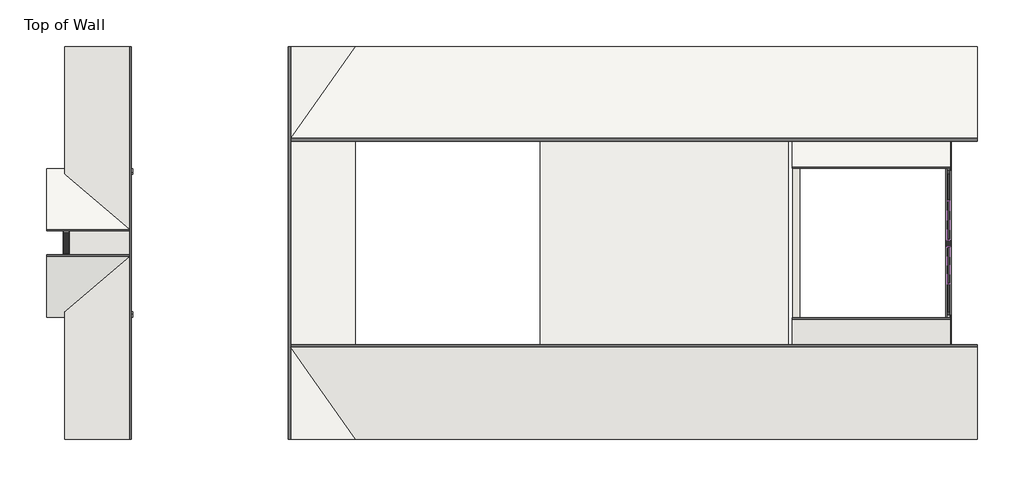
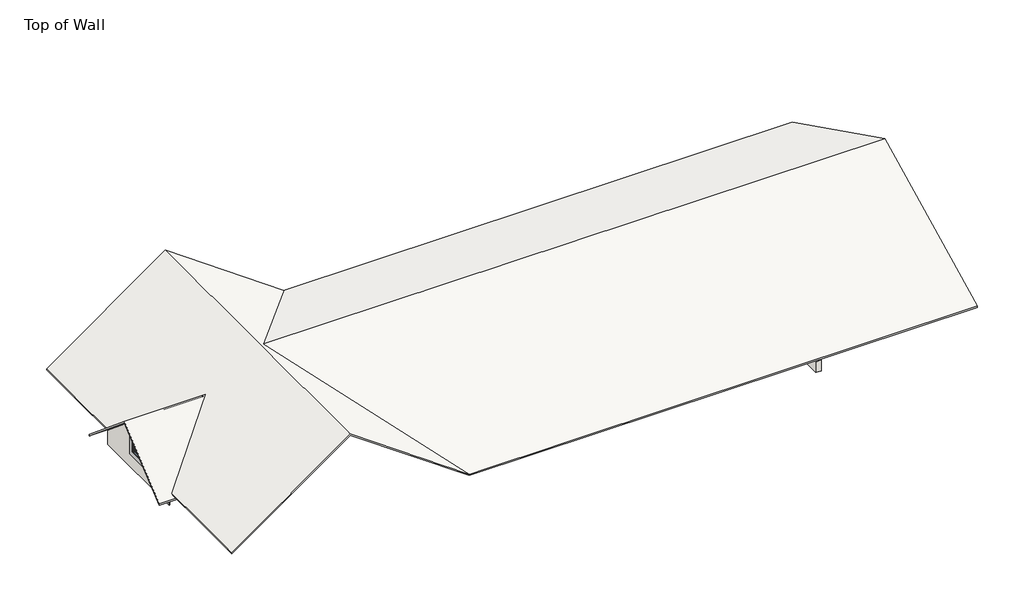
# One storey: 18 members, 6 plates, 5 walls, 3 beams, 3 coverings, 3 roofs, 2 proxies, 1 column, 1 window.
"""IFC4 building model written with IfcOpenShell, lengths in millimetres."""

import ifcopenshell
import ifcopenshell.guid

model = None  # the IFC model being written
_history = None  # IfcOwnerHistory: only IFC2X3 demands one
_inside = {}  # id of a spatial element -> (the spatial element, [elements in it])
_under = {}  # id of a project, library or spatial element -> (it, [spatial elements below it])
_declared = {}  # id of a project -> (the project, [libraries it declares])
_typed = {}  # id of a type object -> (the type object, [elements of that type])
_made_of = {}  # id of a material, layer set ... -> (it, [elements and type objects made of it])


def new_model(schema):
    """Start an empty IFC model of exactly this schema.

    Asked for "IFC4X3", IfcOpenShell would pick the latest addendum, in which some entities
    have other attributes; the version numbers below select the first issue.
    IFC2X3 requires an IfcOwnerHistory on every rooted entity: one is made here for all.
    """
    global model, _history
    if schema == "IFC4X3":
        model = ifcopenshell.file(schema_version=(4, 3, 0, 0))
    else:
        model = ifcopenshell.file(schema=schema)
    _inside.clear()
    _under.clear()
    _declared.clear()
    _typed.clear()
    _made_of.clear()
    _history = None
    if model.schema == "IFC2X3":
        org = make("IfcOrganization", Name="unknown")
        user = make(
            "IfcPersonAndOrganization",
            ThePerson=make("IfcPerson", FamilyName="unknown"),
            TheOrganization=org,
        )
        app = make(
            "IfcApplication",
            ApplicationDeveloper=org,
            Version="unknown",
            ApplicationFullName="unknown",
            ApplicationIdentifier="unknown",
        )
        _history = make(
            "IfcOwnerHistory",
            OwningUser=user,
            OwningApplication=app,
            ChangeAction="ADDED",
            CreationDate=0,
        )
    return model


def make(cls, **values):
    """One entity of the class cls with the attributes given. An attribute that is None is left unset."""
    return model.create_entity(
        cls, **{name: value for name, value in values.items() if value is not None}
    )


def rooted(cls, **values):
    """An entity with a GlobalId (a new one), such as an element, a storey or a relation."""
    return make(cls, GlobalId=ifcopenshell.guid.new(), OwnerHistory=_history, **values)


def si_unit(unit_type, name, prefix=None):
    """IfcSIUnit, for example si_unit("LENGTHUNIT", "METRE", prefix="MILLI")."""
    return make("IfcSIUnit", UnitType=unit_type, Prefix=prefix, Name=name)


def assignment(units):
    """IfcUnitAssignment: the units of a project."""
    return None if units is None else make("IfcUnitAssignment", Units=units)


def point(xyz):
    """IfcCartesianPoint."""
    return None if xyz is None else make("IfcCartesianPoint", Coordinates=xyz)


def direction(xyz):
    """IfcDirection."""
    return None if xyz is None else make("IfcDirection", DirectionRatios=xyz)


def frame(location, z_axis=None, x_axis=None):
    """IfcAxis2Placement3D, a coordinate frame: its origin and axes. An axis left out is left unset."""
    return make(
        "IfcAxis2Placement3D",
        Location=point(location),
        Axis=direction(z_axis),
        RefDirection=direction(x_axis),
    )


def origin():
    """The frame at (0, 0, 0) with its axes left unset."""
    return frame((0.0, 0.0, 0.0))


def origin_with_axes():
    """The frame at (0, 0, 0) with the z axis (0, 0, 1) and the x axis (1, 0, 0) written out."""
    return frame((0.0, 0.0, 0.0), z_axis=(0.0, 0.0, 1.0), x_axis=(1.0, 0.0, 0.0))


def place(relative_to, where):
    """IfcLocalPlacement: puts the frame where relative to a parent placement (None: the world)."""
    return make(
        "IfcLocalPlacement", PlacementRelTo=relative_to, RelativePlacement=where
    )


def context(
    kind, dimensions, precision=None, world=None, true_north=None, identifier=None
):
    """IfcGeometricRepresentationContext, for example the 3D "Model" context."""
    return make(
        "IfcGeometricRepresentationContext",
        ContextIdentifier=identifier,
        ContextType=kind,
        CoordinateSpaceDimension=dimensions,
        Precision=precision,
        WorldCoordinateSystem=world,
        TrueNorth=true_north,
    )


def project(units=None, contexts=None):
    """IfcProject with its units and contexts."""
    return rooted(
        "IfcProject",
        Name="project",
        RepresentationContexts=contexts,
        UnitsInContext=assignment(units),
    )


def spatial(cls, under=None, at=None, **own):
    """A site, building, storey or space (cls), placed at a placement, below another one or the project."""
    s = rooted(cls, ObjectPlacement=at, **own)
    if under is not None:
        _under.setdefault(under.id(), (under, []))[1].append(s)
    return s


def polyline(points):
    """IfcPolyline through the points."""
    return make("IfcPolyline", Points=[point(p) for p in points])


def outline(outer, holes=None, kind="AREA"):
    """IfcArbitraryClosedProfileDef: a profile drawn as a closed curve; with holes, ...WithVoids."""
    if holes is None:
        return make("IfcArbitraryClosedProfileDef", ProfileType=kind, OuterCurve=outer)
    return make(
        "IfcArbitraryProfileDefWithVoids",
        ProfileType=kind,
        OuterCurve=outer,
        InnerCurves=holes,
    )


def extrude(swept, where, along, depth):
    """IfcExtrudedAreaSolid: the profile swept, set in the frame where, extruded along a direction by depth."""
    return make(
        "IfcExtrudedAreaSolid",
        SweptArea=swept,
        Position=where,
        ExtrudedDirection=direction(along),
        Depth=depth,
    )


def faces_of(points, faces, orient=None, outer=None):
    """IfcFace entities. A face is a list of loops; a loop is a list of indices into points, from 0.

    orient and outer hold one flag for each loop. By default every Orientation is true, the
    first loop of a face is its IfcFaceOuterBound and the others are IfcFaceBound.
    """
    made = []
    for i, loops in enumerate(faces):
        bounds = []
        for j, loop in enumerate(loops):
            is_outer = j == 0 if outer is None else outer[i][j]
            bounds.append(
                make(
                    "IfcFaceOuterBound" if is_outer else "IfcFaceBound",
                    Bound=make("IfcPolyLoop", Polygon=[points[k] for k in loop]),
                    Orientation=True if orient is None else orient[i][j],
                )
            )
        made.append(make("IfcFace", Bounds=bounds))
    return made


def faceted_brep(points, faces, orient=None, outer=None, voids=None):
    """IfcFacetedBrep: a solid bounded by flat faces; with voids (closed shells), ...WithVoids."""
    shared = [point(p) for p in points]
    hull = make("IfcClosedShell", CfsFaces=faces_of(shared, faces, orient, outer))
    if voids is None:
        return make("IfcFacetedBrep", Outer=hull)
    return make(
        "IfcFacetedBrepWithVoids",
        Outer=hull,
        Voids=[
            make(cls, CfsFaces=faces_of(shared, fs, o, b)) for cls, fs, o, b in voids
        ],
    )


def shape(context_of_items, identifier, shape_type, items):
    """IfcShapeRepresentation: the items that make up one representation, for example the "Body"."""
    return make(
        "IfcShapeRepresentation",
        ContextOfItems=context_of_items,
        RepresentationIdentifier=identifier,
        RepresentationType=shape_type,
        Items=items,
    )


def source(mapping_origin, context_of_items, identifier, shape_type, items):
    """IfcRepresentationMap: a shape defined once, which mapped items show again and again."""
    return make(
        "IfcRepresentationMap",
        MappingOrigin=mapping_origin,
        MappedRepresentation=shape(context_of_items, identifier, shape_type, items),
    )


def transform(
    local_origin,
    x_axis=None,
    y_axis=None,
    z_axis=None,
    scale=None,
    scale2=None,
    scale3=None,
    uniform=True,
):
    """IfcCartesianTransformationOperator3D, or its non-uniform kind. x_axis, y_axis, z_axis: its Axis1, 2, 3."""
    if uniform:
        return make(
            "IfcCartesianTransformationOperator3D",
            Axis1=direction(x_axis),
            Axis2=direction(y_axis),
            LocalOrigin=point(local_origin),
            Scale=scale,
            Axis3=direction(z_axis),
        )
    return make(
        "IfcCartesianTransformationOperator3DnonUniform",
        Axis1=direction(x_axis),
        Axis2=direction(y_axis),
        LocalOrigin=point(local_origin),
        Scale=scale,
        Axis3=direction(z_axis),
        Scale2=scale2,
        Scale3=scale3,
    )


def mapped(mapping_source, mapping_target):
    """IfcMappedItem: shows the shape of a source again, moved by a transform."""
    return make(
        "IfcMappedItem", MappingSource=mapping_source, MappingTarget=mapping_target
    )


def made_of(thing, what):
    """Note that an element or type object is made of a material, layer set ...; save() writes the relation."""
    if what is not None:
        _made_of.setdefault(what.id(), (what, []))[1].append(thing)
    return thing


def element(
    cls,
    number,
    at=None,
    inside=None,
    cuts=None,
    type_object=None,
    material=None,
    context=None,
    identifier="Body",
    shape_type=None,
    held_by="IfcProductDefinitionShape",
    body=None,
    shapes=None,
    **own,
):
    """One element of the class cls, such as IfcWall. Its Tag is "e" and its number.

    at: its placement. inside: the storey or other place that contains it. cuts: it is an
    opening in that element (IfcRelVoidsElement). A single representation is given by context,
    identifier, shape_type and body (its items); several are given by shapes. held_by: the class
    of the entity that holds the representations. save() writes the other relations.
    """
    e = rooted(cls, Tag="e%d" % number, ObjectPlacement=at, **own)
    if body is not None:
        shapes = [shape(context, identifier, shape_type, body)]
    if shapes is not None:
        e.Representation = make(held_by, Representations=shapes)
    if inside is not None:
        _inside.setdefault(inside.id(), (inside, []))[1].append(e)
    if cuts is not None:
        rooted(
            "IfcRelVoidsElement", RelatingBuildingElement=cuts, RelatedOpeningElement=e
        )
    if type_object is not None:
        _typed.setdefault(type_object.id(), (type_object, []))[1].append(e)
    return made_of(e, material)


def aggregate(whole, parts):
    """IfcRelAggregates: a whole, such as a stair, and the parts it consists of."""
    return rooted("IfcRelAggregates", RelatingObject=whole, RelatedObjects=parts)


def save(model, path):
    """Write the relations noted so far, then the file.

    IfcRelAggregates (storeys below a building ...), IfcRelContainedInSpatialStructure (elements
    in a storey), IfcRelDefinesByType, IfcRelAssociatesMaterial and IfcRelDeclares: one each for
    every whole, place, type object, material and project.
    """
    for whole, parts in _under.values():
        aggregate(whole, parts)
    for where, things in _inside.values():
        rooted(
            "IfcRelContainedInSpatialStructure",
            RelatedElements=things,
            RelatingStructure=where,
        )
    for kind, things in _typed.values():
        rooted("IfcRelDefinesByType", RelatedObjects=things, RelatingType=kind)
    for what, things in _made_of.values():
        rooted("IfcRelAssociatesMaterial", RelatedObjects=things, RelatingMaterial=what)
    for by, libraries in _declared.values():
        rooted("IfcRelDeclares", RelatingContext=by, RelatedDefinitions=libraries)
    model.write(path)


def dimension_lumber_bh_6x8_fb310b90(model_context):
    return source(origin(), model_context, "Body", "SweptSolid", [
        extrude(outline(polyline([(4339.48205, 69.85), (4339.48205, -69.85), (-4339.48205, -69.85), (-4339.48205, 69.85), (4339.48205, 69.85)])), frame((0.0, 0.0, -92.075), z_axis=(0.0, 0.0, 1.0), x_axis=(1.0, 0.0, 0.0)), (0.0, 0.0, 1.0), 184.15),
    ])


def dimension_lumber_bh_6x8_68a0e328(model_context):
    return source(origin(), model_context, "Body", "SweptSolid", [
        extrude(outline(polyline([(1983.63205, 69.85), (1983.63205, -69.85), (-2053.48205, -69.85), (-2053.48205, 69.85), (1983.63205, 69.85)])), frame((0.0, 0.0, -92.075), z_axis=(0.0, 0.0, 1.0), x_axis=(1.0, 0.0, 0.0)), (0.0, 0.0, 1.0), 184.15),
    ])


def dimension_lumber_bh_6x8_9cf79a14(model_context):
    return source(origin(), model_context, "Body", "SweptSolid", [
        extrude(outline(polyline([(2053.48205, 69.85), (2053.48205, -69.85), (-1983.63205, -69.85), (-1983.63205, 69.85), (2053.48205, 69.85)])), frame((0.0, 0.0, -92.075), z_axis=(0.0, 0.0, 1.0), x_axis=(1.0, 0.0, 0.0)), (0.0, 0.0, 1.0), 184.15),
    ])


def trim_window_exterior_flat_picture_frame_8815b321(model_context):
    return source(origin(), model_context, "Body", "SweptSolid", [
        extrude(outline(polyline([(444.5, 139.7), (444.5, -749.3), (-444.5, -749.3), (-444.5, 139.7), (444.5, 139.7)]), holes=[polyline([(304.8, 0.0), (-304.8, 0.0), (-304.8, -609.6), (304.8, -609.6), (304.8, 0.0)])]), origin_with_axes(), (0.0, 0.0, 1.0), 19.05),
    ])


def trim_window_interior_flat_picture_frame_7b48024e(model_context):
    return source(origin(), model_context, "Body", "SweptSolid", [
        extrude(outline(polyline([(381.0, 63.5), (381.0, -685.8), (-381.0, -685.8), (-381.0, 63.5), (381.0, 63.5)]), holes=[polyline([(292.1, -12.7), (-292.1, -12.7), (-292.1, -596.9), (292.1, -596.9), (292.1, -12.7)])]), origin_with_axes(), (0.0, 0.0, 1.0), 19.05),
    ])


def dimension_lumber_column_bh_6x6_a5d58985(model_context):
    return source(origin(), model_context, "Body", "SweptSolid", [
        extrude(outline(polyline([(69.85, 69.85), (69.85, -69.85), (-69.85, -69.85), (-69.85, 69.85), (69.85, 69.85)])), frame((0.0, 0.0, 3302.0), z_axis=(0.0, 0.0, 1.0), x_axis=(1.0, 0.0, 0.0)), (0.0, 0.0, 1.0), 2133.6),
    ])


def rectangular_mullion_screen_frame_ee6aec00(model_context):
    return source(origin(), model_context, "Body", "SweptSolid", [
        extrude(outline(polyline([(0.0, 31.75), (0.0, -31.75), (-38.1, -31.75), (-38.1, 31.75), (0.0, 31.75)])), frame((0.0, 0.0, -904.1892), z_axis=(0.0, 0.0, 1.0), x_axis=(1.0, 0.0, 0.0)), (0.0, 0.0, 1.0), 904.1892),
    ])


def rectangular_mullion_screen_frame_013a71e0(model_context):
    return source(origin(), model_context, "Body", "SweptSolid", [
        extrude(outline(polyline([(0.0, 0.0), (-62.106626, -38.1), (-2093.8077001, -38.1), (-2093.8077001, 0.0), (0.0, 0.0)])), frame((0.0, -31.75, 0.0), z_axis=(0.0, 1.0, 0.0), x_axis=(0.0, 0.0, 1.0)), (0.0, 0.0, 1.0), 63.5),
    ])


def rectangular_mullion_screen_frame_9330c1cc(model_context):
    return source(origin(), model_context, "Body", "SweptSolid", [
        extrude(outline(polyline([(0.0, 31.75), (0.0, -31.75), (-38.1, -31.75), (-38.1, 31.75), (0.0, 31.75)])), frame((0.0, 0.0, -954.786), z_axis=(0.0, 0.0, 1.0), x_axis=(1.0, 0.0, 0.0)), (0.0, 0.0, 1.0), 954.786),
    ])


def rectangular_mullion_screen_frame_83de2e3d(model_context):
    return source(origin(), model_context, "Body", "SweptSolid", [
        extrude(outline(polyline([(0.0, 0.0), (0.0, -38.1), (-2042.1398217, -38.1), (-2104.2464477, 0.0), (0.0, 0.0)])), frame((0.0, -31.75, 0.0), z_axis=(0.0, 1.0, 0.0), x_axis=(0.0, 0.0, 1.0)), (0.0, 0.0, 1.0), 63.5),
    ])


def rectangular_mullion_screen_frame_a20606ee(model_context):
    return source(origin(), model_context, "Body", "SweptSolid", [
        extrude(outline(polyline([(0.0, 0.0), (-159.034112, -38.1), (-1617.6139535, -38.1), (-1617.6139535, 0.0), (0.0, 0.0)])), frame((0.0, -31.75, 0.0), z_axis=(0.0, 1.0, 0.0), x_axis=(0.0, 0.0, 1.0)), (0.0, 0.0, 1.0), 63.5),
    ])


def rectangular_mullion_screen_frame_deee551e(model_context):
    return source(origin(), model_context, "Body", "SweptSolid", [
        extrude(outline(polyline([(0.0, 0.0), (0.0, -38.1), (-1016.3026763, -38.1), (-1078.4093023, 0.0), (0.0, 0.0)])), frame((0.0, -31.75, 0.0), z_axis=(0.0, 1.0, 0.0), x_axis=(0.0, 0.0, 1.0)), (0.0, 0.0, 1.0), 63.5),
    ])


def rectangular_mullion_screen_frame_176d3cdc(model_context):
    return source(origin(), model_context, "Body", "SweptSolid", [
        extrude(outline(polyline([(0.0, 31.75), (0.0, -31.75), (-38.1, -31.75), (-38.1, 31.75), (0.0, 31.75)])), frame((0.0, 0.0, -1677.6500867), z_axis=(0.0, 0.0, 1.0), x_axis=(1.0, 0.0, 0.0)), (0.0, 0.0, 1.0), 1677.6500867),
    ])


def rectangular_mullion_screen_frame_a49a39bd(model_context):
    return source(origin(), model_context, "Body", "SweptSolid", [
        extrude(outline(polyline([(0.0, 19.05), (0.0, -19.05), (-1572.0863066, -19.05), (-1571.1786793, -17.2644466), (-1552.7194278, 19.05), (0.0, 19.05)])), frame((0.0, -31.75, 0.0), z_axis=(0.0, 1.0, 0.0), x_axis=(0.0, 0.0, 1.0)), (0.0, 0.0, 1.0), 63.5),
    ])


def rectangular_mullion_screen_frame_8fefd284(model_context):
    return source(origin(), model_context, "Body", "SweptSolid", [
        extrude(outline(polyline([(0.0, 31.75), (0.0, -31.75), (-38.1, -31.75), (-38.1, 31.75), (0.0, 31.75)])), frame((0.0, 0.0, -1924.6909457), z_axis=(0.0, 0.0, 1.0), x_axis=(1.0, 0.0, 0.0)), (0.0, 0.0, 1.0), 1924.6909457),
    ])


def rectangular_mullion_screen_frame_79ea2501(model_context):
    return source(origin(), model_context, "Body", "SweptSolid", [
        extrude(outline(polyline([(0.0, 0.0), (0.0, -38.1), (-1263.924688, -38.1), (-1422.9588, 0.0), (0.0, 0.0)])), frame((0.0, -31.75, 0.0), z_axis=(0.0, 1.0, 0.0), x_axis=(0.0, 0.0, 1.0)), (0.0, 0.0, 1.0), 63.5),
    ])


def rectangular_mullion_screen_frame_4bcd470e(model_context):
    return source(origin(), model_context, "Body", "SweptSolid", [
        extrude(outline(polyline([(0.0, 19.05), (0.0, -19.05), (-699.9413206, -19.05), (-699.0336934, -17.2644466), (-680.5744418, 19.05), (0.0, 19.05)])), frame((0.0, -31.75, 0.0), z_axis=(0.0, 1.0, 0.0), x_axis=(0.0, 0.0, 1.0)), (0.0, 0.0, 1.0), 63.5),
    ])


def rectangular_mullion_screen_frame_2119ea84(model_context):
    return source(origin(), model_context, "Body", "SweptSolid", [
        extrude(outline(polyline([(0.0, 0.0), (-62.106626, -38.1), (-1135.1676867, -38.1), (-1135.1676867, 0.0), (0.0, 0.0)])), frame((0.0, -31.75, 0.0), z_axis=(0.0, 1.0, 0.0), x_axis=(0.0, 0.0, 1.0)), (0.0, 0.0, 1.0), 63.5),
    ])


def rectangular_mullion_screen_frame_e75fa713(model_context):
    return source(origin(), model_context, "Body", "SweptSolid", [
        extrude(outline(polyline([(0.0, 19.05), (0.0, -19.05), (-1537.4389604, -19.05), (-1555.898212, 17.2644466), (-1556.8058392, 19.05), (0.0, 19.05)])), frame((0.0, -31.75, 0.0), z_axis=(0.0, 1.0, 0.0), x_axis=(0.0, 0.0, 1.0)), (0.0, 0.0, 1.0), 63.5),
    ])


def rectangular_mullion_screen_frame_7a745c24(model_context):
    return source(origin(), model_context, "Body", "SweptSolid", [
        extrude(outline(polyline([(0.0, 0.0), (-159.034112, -38.1), (-1422.9588, -38.1), (-1422.9588, 0.0), (0.0, 0.0)])), frame((0.0, -31.75, 0.0), z_axis=(0.0, 1.0, 0.0), x_axis=(0.0, 0.0, 1.0)), (0.0, 0.0, 1.0), 63.5),
    ])


def rectangular_mullion_screen_frame_60373731(model_context):
    return source(origin(), model_context, "Body", "SweptSolid", [
        extrude(outline(polyline([(0.0, 31.75), (0.0, -31.75), (-38.1, -31.75), (-38.1, 31.75), (0.0, 31.75)])), frame((0.0, 0.0, -1890.9692851), z_axis=(0.0, 0.0, 1.0), x_axis=(1.0, 0.0, 0.0)), (0.0, 0.0, 1.0), 1890.9692851),
    ])


def rectangular_mullion_screen_frame_e0ec7711(model_context):
    return source(origin(), model_context, "Body", "SweptSolid", [
        extrude(outline(polyline([(0.0, 0.0), (0.0, -38.1), (-1458.5798416, -38.1), (-1617.6139535, 0.0), (0.0, 0.0)])), frame((0.0, -31.75, 0.0), z_axis=(0.0, 1.0, 0.0), x_axis=(0.0, 0.0, 1.0)), (0.0, 0.0, 1.0), 63.5),
    ])


def rectangular_mullion_screen_frame_23a45e78(model_context):
    return source(origin(), model_context, "Body", "SweptSolid", [
        extrude(outline(polyline([(0.0, 31.75), (0.0, -31.75), (-38.1, -31.75), (-38.1, 31.75), (0.0, 31.75)])), frame((0.0, 0.0, -1647.5891867), z_axis=(0.0, 0.0, 1.0), x_axis=(1.0, 0.0, 0.0)), (0.0, 0.0, 1.0), 1647.5891867),
    ])


def rectangular_mullion_screen_frame_31afa89d(model_context):
    return source(origin(), model_context, "Body", "SweptSolid", [
        extrude(outline(polyline([(0.0, 19.05), (0.0, -19.05), (-680.5744418, -19.05), (-699.0336934, 17.2644466), (-699.9413206, 19.05), (0.0, 19.05)])), frame((0.0, -31.75, 0.0), z_axis=(0.0, 1.0, 0.0), x_axis=(0.0, 0.0, 1.0)), (0.0, 0.0, 1.0), 63.5),
    ])


def system_panel_screen_66b03ef9(model_context):
    return source(origin(), model_context, "Body", "SweptSolid", [
        extrude(outline(polyline([(0.0, -452.0946), (0.0, 452.0946), (1533.9863066, 452.0946), (1993.601074, -452.0946), (0.0, -452.0946)])), frame((0.0, -12.7, 0.0), z_axis=(0.0, 1.0, 0.0), x_axis=(0.0, 0.0, 1.0)), (0.0, 0.0, 1.0), 25.4),
    ])


def system_panel_screen_257f5660(model_context):
    return source(origin(), model_context, "Body", "SweptSolid", [
        extrude(outline(polyline([(0.0, -477.393), (0.0, 477.393), (2004.0398217, 477.393), (1518.7058392, -477.393), (0.0, -477.393)])), frame((0.0, -12.7, 0.0), z_axis=(0.0, 1.0, 0.0), x_axis=(0.0, 0.0, 1.0)), (0.0, 0.0, 1.0), 25.4),
    ])


def system_panel_screen_32e33c9f(model_context):
    return source(origin(), model_context, "Body", "SweptSolid", [
        extrude(outline(polyline([(0.0, -838.8250433), (0.0, 838.8250433), (661.8413206, 838.8250433), (1514.6194278, -838.8250433), (0.0, -838.8250433)])), frame((0.0, -12.7, 0.0), z_axis=(0.0, 1.0, 0.0), x_axis=(0.0, 0.0, 1.0)), (0.0, 0.0, 1.0), 25.4),
    ])


def system_panel_screen_d623d4bf(model_context):
    return source(origin(), model_context, "Body", "SweptSolid", [
        extrude(outline(polyline([(0.0, -631.962344), (0.0, 631.962344), (642.4744418, -631.962344), (0.0, -631.962344)])), frame((0.0, -12.7, 0.0), z_axis=(0.0, 1.0, 0.0), x_axis=(0.0, 0.0, 1.0)), (0.0, 0.0, 1.0), 25.4),
    ])


def system_panel_screen_efeee9d3(model_context):
    return source(origin(), model_context, "Body", "SweptSolid", [
        extrude(outline(polyline([(0.0, -631.962344), (0.0, 631.962344), (642.4744418, 631.962344), (0.0, -631.962344)])), frame((0.0, -12.7, 0.0), z_axis=(0.0, 1.0, 0.0), x_axis=(0.0, 0.0, 1.0)), (0.0, 0.0, 1.0), 25.4),
    ])


def system_panel_screen_35475e27(model_context):
    return source(origin(), model_context, "Body", "SweptSolid", [
        extrude(outline(polyline([(0.0, -823.7945933), (0.0, 823.7945933), (1499.3389604, 823.7945933), (661.8413206, -823.7945933), (0.0, -823.7945933)])), frame((0.0, -12.7, 0.0), z_axis=(0.0, 1.0, 0.0), x_axis=(0.0, 0.0, 1.0)), (0.0, 0.0, 1.0), 25.4),
    ])


def window_fixed_w_trim_2020_b07e8416(model_context):
    return source(origin(), model_context, "Body", "SweptSolid", [
        extrude(outline(polyline([(203.2, 12.7), (-279.4, 12.7), (-279.4, 25.4), (203.2, 25.4), (203.2, 12.7)])), frame((0.0, 0.0, 977.9), z_axis=(0.0, 0.0, 1.0), x_axis=(1.0, 0.0, 0.0)), (0.0, 0.0, 1.0), 482.6),
        extrude(outline(polyline([(1504.95, -323.85), (933.45, -323.85), (933.45, 247.65), (1504.95, 247.65), (1504.95, -323.85)]), holes=[polyline([(1460.5, -279.4), (1460.5, 203.2), (977.9, 203.2), (977.9, -279.4), (1460.5, -279.4)])]), frame((0.0, -3.175, 0.0), z_axis=(0.0, 1.0, 0.0), x_axis=(0.0, 0.0, 1.0)), (0.0, 0.0, 1.0), 44.45),
        extrude(outline(polyline([(1524.0, -342.9), (914.4, -342.9), (914.4, 266.7), (1524.0, 266.7), (1524.0, -342.9)]), holes=[polyline([(1492.25, -311.15), (1492.25, 234.95), (946.15, 234.95), (946.15, -311.15), (1492.25, -311.15)])]), frame((0.0, -60.325, 0.0), z_axis=(0.0, 1.0, 0.0), x_axis=(0.0, 0.0, 1.0)), (0.0, 0.0, 1.0), 57.15),
        extrude(outline(polyline([(1524.0, 266.7), (1524.0, -342.9), (914.4, -342.9), (914.4, 266.7), (1524.0, 266.7)]), holes=[polyline([(1504.95, 247.65), (933.45, 247.65), (933.45, -323.85), (1504.95, -323.85), (1504.95, 247.65)])]), frame((0.0, -3.175, 0.0), z_axis=(0.0, 1.0, 0.0), x_axis=(0.0, 0.0, 1.0)), (0.0, 0.0, 1.0), 63.5),
    ])


model = new_model("IFC4")

# Units and contexts
model_context = context("Model", 3, world=origin())
ifc_project = project(units=[si_unit("LENGTHUNIT", "METRE", prefix="MILLI")], contexts=[model_context])

# Site, building, storey
site = spatial("IfcSite", under=ifc_project)
building = spatial("IfcBuilding", under=site)
storey = spatial("IfcBuildingStorey", under=building, Name="Top of Wall", Elevation=3302.0)

# Beams
placement = place(None, origin())
dimension_lumber_bh_6x8_shape = dimension_lumber_bh_6x8_fb310b90(model_context)
element("IfcBeam", 1, ObjectType="Dimension Lumber BH : 6x8", at=placement, inside=storey, context=model_context, shape_type="MappedRepresentation", body=[
    mapped(dimension_lumber_bh_6x8_shape, transform((27590.4311833, 10712.3819784, 3209.925), x_axis=(0.0, -1.0, 0.0), y_axis=(1.0, 0.0, 0.0), z_axis=(0.0, 0.0, 1.0))),
])
dimension_lumber_bh_6x8_2_shape = dimension_lumber_bh_6x8_68a0e328(model_context)
element("IfcBeam", 2, ObjectType="Dimension Lumber BH : 6x8", at=placement, inside=storey, context=model_context, shape_type="MappedRepresentation", body=[
    mapped(dimension_lumber_bh_6x8_2_shape, transform((25606.7991333, 6303.0499284, 3209.925), x_axis=(-1.0, 0.0, 0.0), y_axis=(0.0, -1.0, 0.0), z_axis=(0.0, 0.0, 1.0))),
])
dimension_lumber_bh_6x8_3_shape = dimension_lumber_bh_6x8_9cf79a14(model_context)
element("IfcBeam", 3, ObjectType="Dimension Lumber BH : 6x8", at=placement, inside=storey, context=model_context, shape_type="MappedRepresentation", body=[
    mapped(dimension_lumber_bh_6x8_3_shape, transform((25606.7991333, 15121.7140284, 3209.925), x_axis=(1.0, 0.0, 0.0), y_axis=(0.0, 1.0, 0.0), z_axis=(0.0, 0.0, 1.0))),
])

# Proxies
trim_window_exterior_flat_picture_frame_shape = trim_window_exterior_flat_picture_frame_8815b321(model_context)
element("IfcBuildingElementProxy", 4, Name="Trim-Window-Exterior-Flat : Picture Frame", ObjectType="Trim-Window-Exterior-Flat : Picture Frame", at=placement, inside=storey, context=model_context, shape_type="MappedRepresentation", body=[
    mapped(trim_window_exterior_flat_picture_frame_shape, transform((5163.7170833, 10722.6499284, 4067.048), x_axis=(0.0, -1.0, 0.0), y_axis=(0.0, 0.0, 1.0), z_axis=(-1.0, 0.0, 0.0))),
])
trim_window_interior_flat_picture_frame_shape = trim_window_interior_flat_picture_frame_7b48024e(model_context)
element("IfcBuildingElementProxy", 5, Name="Trim-Window-Interior-Flat : Picture Frame", ObjectType="Trim-Window-Interior-Flat : Picture Frame", at=placement, inside=storey, context=model_context, shape_type="MappedRepresentation", body=[
    mapped(trim_window_interior_flat_picture_frame_shape, transform((5284.3670833, 10722.6499284, 4067.048), x_axis=(0.0, 1.0, 0.0), y_axis=(0.0, 0.0, 1.0), z_axis=(1.0, 0.0, 0.0))),
])

# Column
dimension_lumber_column_bh_6x6_shape = dimension_lumber_column_bh_6x6_a5d58985(model_context)
element("IfcColumn", 6, ObjectType="Dimension Lumber-Column BH : 6x6", at=placement, inside=storey, context=model_context, shape_type="MappedRepresentation", body=[
    mapped(dimension_lumber_column_bh_6x6_shape, transform((27590.4311833, 10712.3819784, 0.0), x_axis=(1.0, 0.0, 0.0), y_axis=(0.0, 1.0, 0.0), z_axis=(0.0, 0.0, 1.0))),
])

# Coverings
element("IfcCovering", 7, ObjectType="T&G Ceiling BHD", at=placement, inside=storey, context=model_context, shape_type="SweptSolid", body=[
    extrude(outline(polyline([(17235.0670833, 6303.0499284), (17235.0670833, 15142.2499284), (23521.5670833, 15142.2499284), (23521.5670833, 6303.0499284), (20686.2920833, 6303.0499284), (17235.0670833, 6303.0499284)])), frame((0.0, 0.0, 3286.125), z_axis=(0.0, 0.0, 1.0), x_axis=(1.0, 0.0, 0.0)), (0.0, 0.0, 1.0), 19.05),
])
element("IfcCovering", 8, ObjectType="Wood Painted", at=placement, inside=storey, context=model_context, shape_type="SweptSolid", body=[
    extrude(outline(polyline([(10722.6499284, 5468.4808396), (15051.8640284, 3303.8737896), (15051.8640284, 3286.125), (10722.6499284, 5450.73205), (10722.6499284, 5468.4808396)])), frame((23623.1670833, 0.0, 0.0), z_axis=(1.0, 0.0, 0.0), x_axis=(0.0, 1.0, 0.0)), (0.0, 0.0, 1.0), 4018.0641),
])
element("IfcCovering", 9, ObjectType="Wood Painted", at=placement, inside=storey, context=model_context, shape_type="SweptSolid", body=[
    extrude(outline(polyline([(6393.4358284, 3303.8737896), (10722.6499284, 5468.4808396), (10722.6499284, 5450.73205), (6393.4358284, 3286.125), (6393.4358284, 3303.8737896)])), frame((23623.1670833, 0.0, 0.0), z_axis=(1.0, 0.0, 0.0), x_axis=(0.0, 1.0, 0.0)), (0.0, 0.0, 1.0), 4018.0641),
])

# Members
rectangular_mullion_screen_frame_shape = rectangular_mullion_screen_frame_ee6aec00(model_context)
element("IfcMember", 10, ObjectType="Rectangular Mullion : Screen Frame", at=placement, inside=storey, context=model_context, shape_type="MappedRepresentation", body=[
    mapped(rectangular_mullion_screen_frame_shape, transform((27590.4311833, 10604.4319784, 3302.0), x_axis=(0.0, 0.0, -1.0), y_axis=(-1.0, 0.0, 0.0), z_axis=(0.0, 1.0, 0.0))),
])
rectangular_mullion_screen_frame_2_shape = rectangular_mullion_screen_frame_013a71e0(model_context)
element("IfcMember", 11, ObjectType="Rectangular Mullion : Screen Frame", at=placement, inside=storey, context=model_context, shape_type="MappedRepresentation", body=[
    mapped(rectangular_mullion_screen_frame_2_shape, transform((27590.4311833, 10642.5319784, 5395.8077001), x_axis=(0.0, 1.0, 0.0), y_axis=(-1.0, 0.0, 0.0), z_axis=(0.0, 0.0, 1.0))),
])
rectangular_mullion_screen_frame_3_shape = rectangular_mullion_screen_frame_9330c1cc(model_context)
element("IfcMember", 12, ObjectType="Rectangular Mullion : Screen Frame", at=placement, inside=storey, context=model_context, shape_type="MappedRepresentation", body=[
    mapped(rectangular_mullion_screen_frame_3_shape, transform((27590.4311833, 11775.1179784, 3302.0), x_axis=(0.0, 0.0, -1.0), y_axis=(-1.0, 0.0, 0.0), z_axis=(0.0, 1.0, 0.0))),
])
rectangular_mullion_screen_frame_4_shape = rectangular_mullion_screen_frame_83de2e3d(model_context)
element("IfcMember", 13, ObjectType="Rectangular Mullion : Screen Frame", at=placement, inside=storey, context=model_context, shape_type="MappedRepresentation", body=[
    mapped(rectangular_mullion_screen_frame_4_shape, transform((27590.4311833, 10782.2319784, 3302.0), x_axis=(0.0, -1.0, 0.0), y_axis=(-1.0, 0.0, 0.0), z_axis=(0.0, 0.0, -1.0))),
])
rectangular_mullion_screen_frame_5_shape = rectangular_mullion_screen_frame_a20606ee(model_context)
element("IfcMember", 14, ObjectType="Rectangular Mullion : Screen Frame", at=placement, inside=storey, context=model_context, shape_type="MappedRepresentation", body=[
    mapped(rectangular_mullion_screen_frame_5_shape, transform((27590.4311833, 6523.4338917, 3302.0), x_axis=(0.0, -0.4531350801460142, 0.8914418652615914), y_axis=(-1.0, 0.0, 0.0), z_axis=(0.0, -0.8914418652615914, -0.4531350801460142))),
])
rectangular_mullion_screen_frame_6_shape = rectangular_mullion_screen_frame_deee551e(model_context)
element("IfcMember", 15, ObjectType="Rectangular Mullion : Screen Frame", at=placement, inside=storey, context=model_context, shape_type="MappedRepresentation", body=[
    mapped(rectangular_mullion_screen_frame_6_shape, transform((27590.4311833, 9681.1927784, 4907.1426144), x_axis=(0.0, -0.4531350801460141, 0.8914418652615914), y_axis=(-1.0, 0.0, 0.0), z_axis=(0.0, -0.8914418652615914, -0.4531350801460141))),
])
rectangular_mullion_screen_frame_7_shape = rectangular_mullion_screen_frame_176d3cdc(model_context)
element("IfcMember", 16, ObjectType="Rectangular Mullion : Screen Frame", at=placement, inside=storey, context=model_context, shape_type="MappedRepresentation", body=[
    mapped(rectangular_mullion_screen_frame_7_shape, transform((27590.4311833, 9662.1427784, 3302.0), x_axis=(0.0, 0.0, -1.0), y_axis=(-1.0, 0.0, 0.0), z_axis=(0.0, 1.0, 0.0))),
])
rectangular_mullion_screen_frame_8_shape = rectangular_mullion_screen_frame_a49a39bd(model_context)
element("IfcMember", 17, ObjectType="Rectangular Mullion : Screen Frame", at=placement, inside=storey, context=model_context, shape_type="MappedRepresentation", body=[
    mapped(rectangular_mullion_screen_frame_8_shape, transform((27590.4311833, 9681.1927784, 3302.0), x_axis=(0.0, -1.0, 0.0), y_axis=(-1.0, 0.0, 0.0), z_axis=(0.0, 0.0, -1.0))),
])
rectangular_mullion_screen_frame_9_shape = rectangular_mullion_screen_frame_8fefd284(model_context)
element("IfcMember", 18, ObjectType="Rectangular Mullion : Screen Frame", at=placement, inside=storey, context=model_context, shape_type="MappedRepresentation", body=[
    mapped(rectangular_mullion_screen_frame_9_shape, transform((27590.4311833, 7965.4426917, 4034.9976285), x_axis=(0.0, -0.45313508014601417, 0.8914418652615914), y_axis=(-1.0, 0.0, 0.0), z_axis=(0.0, -0.8914418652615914, -0.45313508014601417))),
])
rectangular_mullion_screen_frame_10_shape = rectangular_mullion_screen_frame_79ea2501(model_context)
element("IfcMember", 19, ObjectType="Rectangular Mullion : Screen Frame", at=placement, inside=storey, context=model_context, shape_type="MappedRepresentation", body=[
    mapped(rectangular_mullion_screen_frame_10_shape, transform((27590.4311833, 7946.3926917, 3302.0), x_axis=(0.0, 0.0, -1.0), y_axis=(-1.0, 0.0, 0.0), z_axis=(0.0, 1.0, 0.0))),
])
rectangular_mullion_screen_frame_11_shape = rectangular_mullion_screen_frame_4bcd470e(model_context)
element("IfcMember", 20, ObjectType="Rectangular Mullion : Screen Frame", at=placement, inside=storey, context=model_context, shape_type="MappedRepresentation", body=[
    mapped(rectangular_mullion_screen_frame_11_shape, transform((27590.4311833, 7965.4426917, 3302.0), x_axis=(0.0, -1.0, 0.0), y_axis=(-1.0, 0.0, 0.0), z_axis=(0.0, 0.0, -1.0))),
])
rectangular_mullion_screen_frame_12_shape = rectangular_mullion_screen_frame_2119ea84(model_context)
element("IfcMember", 21, ObjectType="Rectangular Mullion : Screen Frame", at=placement, inside=storey, context=model_context, shape_type="MappedRepresentation", body=[
    mapped(rectangular_mullion_screen_frame_12_shape, transform((27590.4311833, 10782.2319784, 5406.2464477), x_axis=(0.0, 0.45313508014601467, 0.8914418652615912), y_axis=(-1.0, 0.0, 0.0), z_axis=(0.0, -0.8914418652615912, 0.45313508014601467))),
])
rectangular_mullion_screen_frame_13_shape = rectangular_mullion_screen_frame_e75fa713(model_context)
element("IfcMember", 22, ObjectType="Rectangular Mullion : Screen Frame", at=placement, inside=storey, context=model_context, shape_type="MappedRepresentation", body=[
    mapped(rectangular_mullion_screen_frame_13_shape, transform((27590.4311833, 11794.1679784, 3302.0), x_axis=(0.0, -1.0, 0.0), y_axis=(-1.0, 0.0, 0.0), z_axis=(0.0, 0.0, -1.0))),
])
rectangular_mullion_screen_frame_14_shape = rectangular_mullion_screen_frame_7a745c24(model_context)
element("IfcMember", 23, ObjectType="Rectangular Mullion : Screen Frame", at=placement, inside=storey, context=model_context, shape_type="MappedRepresentation", body=[
    mapped(rectangular_mullion_screen_frame_14_shape, transform((27590.4311833, 14921.8659651, 3302.0), x_axis=(0.0, 0.0, -1.0), y_axis=(-1.0, 0.0, 0.0), z_axis=(0.0, 1.0, 0.0))),
])
rectangular_mullion_screen_frame_15_shape = rectangular_mullion_screen_frame_60373731(model_context)
element("IfcMember", 24, ObjectType="Rectangular Mullion : Screen Frame", at=placement, inside=storey, context=model_context, shape_type="MappedRepresentation", body=[
    mapped(rectangular_mullion_screen_frame_15_shape, transform((27590.4311833, 11794.1679784, 4891.862147), x_axis=(0.0, 0.4531350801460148, 0.8914418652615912), y_axis=(-1.0, 0.0, 0.0), z_axis=(0.0, -0.8914418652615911, 0.4531350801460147))),
])
rectangular_mullion_screen_frame_16_shape = rectangular_mullion_screen_frame_e0ec7711(model_context)
element("IfcMember", 25, ObjectType="Rectangular Mullion : Screen Frame", at=placement, inside=storey, context=model_context, shape_type="MappedRepresentation", body=[
    mapped(rectangular_mullion_screen_frame_16_shape, transform((27590.4311833, 13479.8571651, 4034.9976285), x_axis=(0.0, 0.45313508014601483, 0.8914418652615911), y_axis=(-1.0, 0.0, 0.0), z_axis=(0.0, -0.8914418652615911, 0.45313508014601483))),
])
rectangular_mullion_screen_frame_17_shape = rectangular_mullion_screen_frame_23a45e78(model_context)
element("IfcMember", 26, ObjectType="Rectangular Mullion : Screen Frame", at=placement, inside=storey, context=model_context, shape_type="MappedRepresentation", body=[
    mapped(rectangular_mullion_screen_frame_17_shape, transform((27590.4311833, 13460.8071651, 3302.0), x_axis=(0.0, 0.0, -1.0), y_axis=(-1.0, 0.0, 0.0), z_axis=(0.0, 1.0, 0.0))),
])
rectangular_mullion_screen_frame_18_shape = rectangular_mullion_screen_frame_31afa89d(model_context)
element("IfcMember", 27, ObjectType="Rectangular Mullion : Screen Frame", at=placement, inside=storey, context=model_context, shape_type="MappedRepresentation", body=[
    mapped(rectangular_mullion_screen_frame_18_shape, transform((27590.4311833, 13479.8571651, 3302.0), x_axis=(0.0, -1.0, 0.0), y_axis=(-1.0, 0.0, 0.0), z_axis=(0.0, 0.0, -1.0))),
])

# Plates
system_panel_screen_shape = system_panel_screen_66b03ef9(model_context)
element("IfcPlate", 28, ObjectType="System Panel : Screen", at=placement, inside=storey, context=model_context, shape_type="MappedRepresentation", body=[
    mapped(system_panel_screen_shape, transform((27590.4311833, 10152.3373784, 3340.1), x_axis=(0.0, -1.0, 0.0), y_axis=(1.0, 0.0, 0.0), z_axis=(0.0, 0.0, 1.0))),
])
system_panel_screen_2_shape = system_panel_screen_257f5660(model_context)
element("IfcPlate", 29, ObjectType="System Panel : Screen", at=placement, inside=storey, context=model_context, shape_type="MappedRepresentation", body=[
    mapped(system_panel_screen_2_shape, transform((27590.4311833, 11297.7249784, 3340.1), x_axis=(0.0, -1.0, 0.0), y_axis=(1.0, 0.0, 0.0), z_axis=(0.0, 0.0, 1.0))),
])
system_panel_screen_3_shape = system_panel_screen_32e33c9f(model_context)
element("IfcPlate", 30, ObjectType="System Panel : Screen", at=placement, inside=storey, context=model_context, shape_type="MappedRepresentation", body=[
    mapped(system_panel_screen_3_shape, transform((27590.4311833, 8823.3177351, 3340.1), x_axis=(0.0, -1.0, 0.0), y_axis=(1.0, 0.0, 0.0), z_axis=(0.0, 0.0, 1.0))),
])
system_panel_screen_4_shape = system_panel_screen_d623d4bf(model_context)
element("IfcPlate", 31, ObjectType="System Panel : Screen", at=placement, inside=storey, context=model_context, shape_type="MappedRepresentation", body=[
    mapped(system_panel_screen_4_shape, transform((27590.4311833, 7314.4303477, 3340.1), x_axis=(0.0, -1.0, 0.0), y_axis=(1.0, 0.0, 0.0), z_axis=(0.0, 0.0, 1.0))),
])
system_panel_screen_5_shape = system_panel_screen_efeee9d3(model_context)
element("IfcPlate", 32, ObjectType="System Panel : Screen", at=placement, inside=storey, context=model_context, shape_type="MappedRepresentation", body=[
    mapped(system_panel_screen_5_shape, transform((27590.4311833, 14130.8695091, 3340.1), x_axis=(0.0, -1.0, 0.0), y_axis=(1.0, 0.0, 0.0), z_axis=(0.0, 0.0, 1.0))),
])
system_panel_screen_6_shape = system_panel_screen_35475e27(model_context)
element("IfcPlate", 33, ObjectType="System Panel : Screen", at=placement, inside=storey, context=model_context, shape_type="MappedRepresentation", body=[
    mapped(system_panel_screen_6_shape, transform((27590.4311833, 12637.0125718, 3340.1), x_axis=(0.0, -1.0, 0.0), y_axis=(1.0, 0.0, 0.0), z_axis=(0.0, 0.0, 1.0))),
])

# Roofs
element("IfcRoof", 34, ObjectType="Metal", at=placement, inside=storey, context=model_context, shape_type="SweptSolid", body=[
    extrude(outline(polyline([(3340.9081464, 12548.7670833), (5949.6998131, 8865.7670833), (3340.9081464, 5182.7670833), (3302.0, 5182.7670833), (5910.7916667, 8865.7670833), (3302.0, 12548.7670833), (3340.9081464, 12548.7670833)])), frame((0.0, 5744.2499284, 0.0), z_axis=(0.0, 1.0, 0.0), x_axis=(0.0, 0.0, 1.0)), (0.0, 0.0, 1.0), 9956.8),
])
element("IfcRoof", 35, ObjectType="Metal", at=placement, inside=storey, context=model_context, shape_type="Brep", body=[
    faceted_brep([(12548.7670833, 15701.0499284, 3302.0), (28322.1670833, 15701.0499284, 3302.0), (28322.1670833, 10722.6499284, 5791.2), (9089.5315253, 10722.6499284, 5791.2), (12548.7670833, 15623.2336356, 3340.9081464), (28322.1670833, 5744.2499284, 3302.0), (12548.7670833, 5744.2499284, 3302.0), (12548.7670833, 5822.0662213, 3340.9081464), (28322.1670833, 15701.0499284, 3337.4975791), (12548.7670833, 15701.0499284, 3337.4975791), (12548.7670833, 15694.2287938, 3340.9081464), (9039.4172959, 10722.6499284, 5826.6975791), (28322.1670833, 10722.6499284, 5826.6975791), (28322.1670833, 5744.2499284, 3337.4975791), (12548.7670833, 5751.071063, 3340.9081464), (12548.7670833, 5744.2499284, 3337.4975791)], [[[0, 1, 2, 3, 4]], [[2, 5, 6, 7, 3]], [[8, 9, 10, 11, 12]], [[13, 12, 11, 14, 15]], [[0, 9, 8, 1]], [[5, 13, 15, 6]], [[8, 12, 13, 5, 2, 1]], [[15, 14, 7, 6]], [[14, 11, 10, 4, 3, 7]], [[10, 9, 0, 4]]]),
])
element("IfcRoof", 36, ObjectType="Metal", at=placement, inside=storey, context=model_context, shape_type="Brep", body=[
    faceted_brep([(6911.207838, 8843.0499284, 3188.4493954), (4725.5670833, 8843.0499284, 3188.4493954), (4725.5670833, 10722.6499284, 4754.7827288), (7178.8253171, 10722.6499284, 4754.7827288), (5182.7670833, 9026.0004296, 3340.9081464), (5182.7670833, 8979.3106539, 3302.0), (6911.207838, 8979.3106539, 3302.0), (4725.5670833, 12602.2499284, 3188.4493954), (6911.207838, 12602.2499284, 3188.4493954), (6911.207838, 12465.9892029, 3302.0), (5182.7670833, 12465.9892029, 3302.0), (5182.7670833, 12419.2994272, 3340.9081464), (4725.5670833, 8843.0499284, 3229.7786333), (6911.207838, 8843.0499284, 3229.7786333), (6911.207838, 8929.7155685, 3302.0), (5182.7670833, 8929.7155685, 3302.0), (5182.7670833, 8976.4053442, 3340.9081464), (7237.1724765, 10722.6499284, 4796.1119666), (4725.5670833, 10722.6499284, 4796.1119666), (4725.5670833, 12602.2499284, 3229.7786333), (5182.7670833, 12468.8945127, 3340.9081464), (5182.7670833, 12515.5842884, 3302.0), (6911.207838, 12515.5842884, 3302.0), (6911.207838, 12602.2499284, 3229.7786333)], [[[0, 1, 2, 3, 4, 5, 6]], [[2, 7, 8, 9, 10, 11, 3]], [[12, 13, 14, 15, 16, 17, 18]], [[19, 18, 17, 20, 21, 22, 23]], [[0, 13, 12, 1]], [[7, 19, 23, 8]], [[12, 18, 19, 7, 2, 1]], [[14, 13, 0, 6]], [[23, 22, 9, 8]], [[9, 22, 21, 10]], [[14, 6, 5, 15]], [[21, 20, 11, 10]], [[20, 17, 16, 4, 3, 11]], [[16, 15, 5, 4]]]),
])

# Walls
element("IfcWall", 37, ObjectType="Exterior 4” Hardie", at=placement, inside=storey, context=model_context, shape_type="Brep", body=[
    faceted_brep([(5163.7170833, 9071.7380549, 2895.6), (5163.7170833, 9071.7380549, 3354.2252915), (5163.7170833, 10722.6499284, 4729.985186), (5163.7170833, 12373.5618019, 3354.2252915), (5163.7170833, 12373.5618019, 2895.6), (5163.7170833, 11027.4499284, 3457.448), (5163.7170833, 11027.4499284, 4067.048), (5163.7170833, 10417.8499284, 4067.048), (5163.7170833, 10417.8499284, 3457.448), (5284.3670833, 9071.7380549, 3302.0), (5284.3670833, 12373.5618019, 3302.0), (5284.3670833, 12373.5618019, 3354.2252915), (5284.3670833, 10722.6499284, 4729.985186), (5284.3670833, 9071.7380549, 3354.2252915), (5284.3670833, 11027.4499284, 4067.048), (5284.3670833, 11027.4499284, 3457.448), (5284.3670833, 10417.8499284, 3457.448), (5284.3670833, 10417.8499284, 4067.048), (5182.7670833, 12373.5618019, 2895.6), (5182.7670833, 9071.7380549, 2895.6), (5182.7670833, 9071.7380549, 3302.0), (5182.7670833, 12373.5618019, 3302.0)], [[[0, 1, 2, 3, 4], [5, 6, 7, 8]], [[9, 10, 11, 12, 13], [14, 15, 16, 17]], [[0, 4, 18, 19]], [[1, 0, 19, 20, 9, 13]], [[4, 3, 11, 10, 21, 18]], [[10, 9, 20, 21]], [[18, 21, 20, 19]], [[2, 1, 13, 12]], [[3, 2, 12, 11]], [[14, 6, 5, 15]], [[15, 5, 8, 16]], [[16, 8, 7, 17]], [[6, 14, 17, 7]]]),
])
element("IfcWall", 38, ObjectType="Exterior 6” Hardie", at=placement, inside=storey, context=model_context, shape_type="SweptSolid", body=[
    extrude(outline(polyline([(2794.0, 23642.2170833), (2441.4163063, 23642.2170833), (2441.4163063, 23794.6170833), (2441.4163063, 23813.6670833), (2794.0, 23813.6670833), (2794.0, 23642.2170833)])), frame((0.0, 6330.0374284, 0.0), z_axis=(0.0, 1.0, 0.0), x_axis=(0.0, 0.0, 1.0)), (0.0, 0.0, 1.0), 8759.9266),
])
element("IfcWall", 39, ObjectType="Trim", at=placement, inside=storey, context=model_context, shape_type="Brep", body=[
    faceted_brep([(27641.2311833, 15204.2640284, 3302.0), (27641.2311833, 15039.1640284, 3302.0), (27641.2311833, 14921.8659651, 3302.0), (27641.2311833, 10722.6499284, 5436.5330183), (27641.2311833, 6523.4338917, 3302.0), (27641.2311833, 6385.5999284, 3302.0), (27641.2311833, 6220.4999284, 3302.0), (27641.2311833, 6220.4999284, 3518.8264525), (27641.2311833, 10722.6499284, 5769.9014525), (27641.2311833, 15204.2640284, 3529.0944025), (27660.2811833, 15204.2640284, 3302.0), (27660.2811833, 15204.2640284, 3529.0944025), (27660.2811833, 10722.6499284, 5769.9014525), (27660.2811833, 6220.4999284, 3518.8264525), (27660.2811833, 6220.4999284, 3302.0), (27660.2811833, 6523.4338917, 3302.0), (27660.2811833, 10722.6499284, 5436.5330183), (27660.2811833, 14921.8659651, 3302.0)], [[[0, 1, 2, 3, 4, 5, 6, 7, 8, 9]], [[10, 11, 12, 13, 14, 15, 16, 17]], [[2, 1, 0, 10, 17]], [[3, 2, 17, 16]], [[4, 3, 16, 15]], [[6, 5, 4, 15, 14]], [[8, 7, 13, 12]], [[9, 8, 12, 11]], [[7, 6, 14, 13]], [[0, 9, 11, 10]]]),
])
element("IfcWall", 40, ObjectType="Trim 6\"", at=placement, inside=storey, context=model_context, shape_type="Brep", body=[
    faceted_brep([(23642.2170833, 6220.4999284, 3302.0), (27641.2311833, 6220.4999284, 3302.0), (27641.2311833, 6220.4999284, 3518.8264525), (27641.2311833, 6220.4999284, 3540.125), (23642.2170833, 6220.4999284, 3540.125), (23642.2170833, 6385.5999284, 3302.0), (23642.2170833, 6385.5999284, 3622.675), (27641.2311833, 6385.5999284, 3622.675), (27641.2311833, 6385.5999284, 3302.0), (23642.2170833, 6303.0499284, 3581.4)], [[[0, 1, 2, 3, 4]], [[5, 6, 7, 8]], [[1, 0, 5, 8]], [[3, 2, 1, 8, 7]], [[0, 4, 9, 6, 5]], [[4, 3, 7, 6, 9]]]),
])
element("IfcWall", 41, ObjectType="Trim 6\"", at=placement, inside=storey, context=model_context, shape_type="Brep", body=[
    faceted_brep([(23642.2170833, 15039.1640284, 3302.0), (27641.2311833, 15039.1640284, 3302.0), (27641.2311833, 15039.1640284, 3632.94295), (23642.2170833, 15039.1640284, 3632.94295), (23642.2170833, 15204.2640284, 3302.0), (23642.2170833, 15204.2640284, 3550.39295), (27641.2311833, 15204.2640284, 3550.39295), (27641.2311833, 15204.2640284, 3529.0944025), (27641.2311833, 15204.2640284, 3302.0), (23642.2170833, 15142.2499284, 3581.4)], [[[0, 1, 2, 3]], [[4, 5, 6, 7, 8]], [[1, 0, 4, 8]], [[2, 1, 8, 7, 6]], [[0, 3, 9, 5, 4]], [[3, 2, 6, 5, 9]]]),
])

# Window
window_fixed_w_trim_2020_shape = window_fixed_w_trim_2020_b07e8416(model_context)
element("IfcWindow", 42, ObjectType="Window-Fixed-w-Trim : 2020", at=placement, inside=storey, context=model_context, shape_type="MappedRepresentation", body=[
    mapped(window_fixed_w_trim_2020_shape, transform((5224.0420833, 10760.7499284, 2543.048), x_axis=(0.0, 1.0, 0.0), y_axis=(-1.0, 0.0, 0.0), z_axis=(0.0, 0.0, 1.0))),
])

save(model, "model.ifc")
